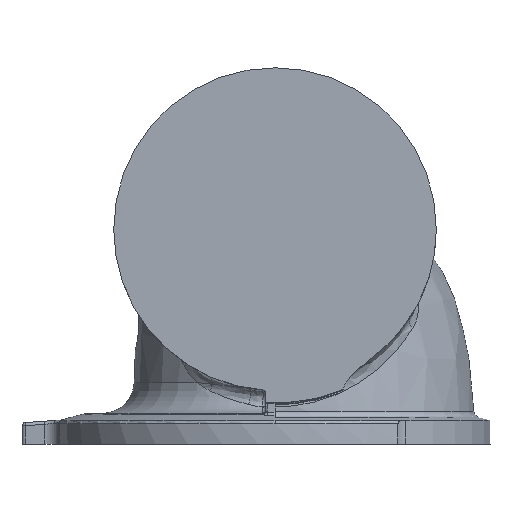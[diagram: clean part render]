
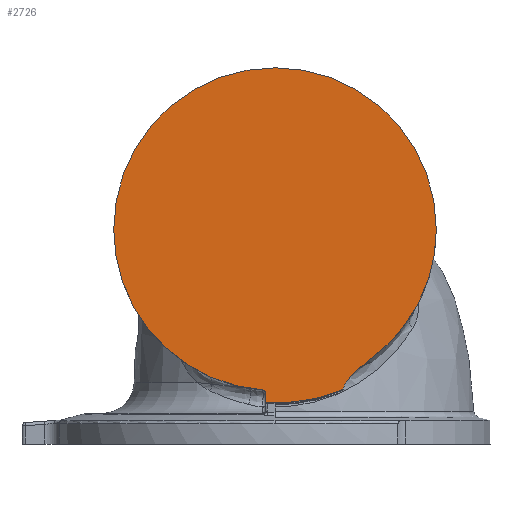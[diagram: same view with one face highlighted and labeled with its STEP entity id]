
A CAD part, left-side view. The second image highlights one B-rep face of the part: STEP entity #2726.
In plain terms, the highlighted planar face has unit normal (-1, 0, 0).
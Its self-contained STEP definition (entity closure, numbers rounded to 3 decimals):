
#109 = LINE ( 'NONE', #29613, #18915 ) ;
#161 = CARTESIAN_POINT ( 'NONE',  ( -58.7, -26.408, 145.926 ) ) ;
#455 = CIRCLE ( 'NONE', #26333, 51. ) ;
#641 = CARTESIAN_POINT ( 'NONE',  ( -58.7, -24.684, 144.269 ) ) ;
#2360 = EDGE_CURVE ( 'NONE', #17118, #13776, #18748, .T. ) ;
#2582 = CARTESIAN_POINT ( 'NONE',  ( -58.7, -25.203, 144.799 ) ) ;
#2726 = ADVANCED_FACE ( 'NONE', ( #18534 ), #30673, .T. ) ;
#2764 = DIRECTION ( 'NONE',  ( 0., -1., 0. ) ) ;
#3183 = AXIS2_PLACEMENT_3D ( 'NONE', #17445, #17285, #9976 ) ;
#3303 = CARTESIAN_POINT ( 'NONE',  ( -58.7, -21.592, 139.361 ) ) ;
#3742 = ORIENTED_EDGE ( 'NONE', *, *, #16642, .F. ) ;
#3842 = AXIS2_PLACEMENT_3D ( 'NONE', #17377, #19645, #2764 ) ;
#4030 = ORIENTED_EDGE ( 'NONE', *, *, #9309, .T. ) ;
#4844 = DIRECTION ( 'NONE',  ( 0., -1., 0. ) ) ;
#6807 = DIRECTION ( 'NONE',  ( 0., -1., 0. ) ) ;
#6822 = CARTESIAN_POINT ( 'NONE',  ( -58.7, -24.512, 144.091 ) ) ;
#6990 = CARTESIAN_POINT ( 'NONE',  ( -58.7, -23.122, 142.49 ) ) ;
#7282 = CARTESIAN_POINT ( 'NONE',  ( -58.7, 0., 190. ) ) ;
#7300 = CARTESIAN_POINT ( 'NONE',  ( -58.7, -22.256, 141.218 ) ) ;
#8900 = CIRCLE ( 'NONE', #17717, 51. ) ;
#9253 = CARTESIAN_POINT ( 'NONE',  ( -58.7, -21.807, 140.376 ) ) ;
#9309 = EDGE_CURVE ( 'NONE', #16813, #30231, #18356, .T. ) ;
#9333 = VERTEX_POINT ( 'NONE', #12972 ) ;
#9734 = CARTESIAN_POINT ( 'NONE',  ( -58.7, -22.84, 142.1 ) ) ;
#9968 = EDGE_LOOP ( 'NONE', ( #3742, #14441, #26094, #22468, #12891, #14933, #4030 ) ) ;
#9976 = DIRECTION ( 'NONE',  ( 0., -1., 0. ) ) ;
#10211 = CARTESIAN_POINT ( 'NONE',  ( -58.7, -27.002, 146.444 ) ) ;
#10537 = CARTESIAN_POINT ( 'NONE',  ( -58.7, -24.834, 144.423 ) ) ;
#11836 = EDGE_CURVE ( 'NONE', #25634, #16813, #455, .T. ) ;
#11983 = DIRECTION ( 'NONE',  ( -1., 0., 0. ) ) ;
#12643 = CARTESIAN_POINT ( 'NONE',  ( -58.7, -26.901, 146.357 ) ) ;
#12891 = ORIENTED_EDGE ( 'NONE', *, *, #26717, .T. ) ;
#12972 = CARTESIAN_POINT ( 'NONE',  ( -58.7, -29.517, 148.41 ) ) ;
#13032 = CIRCLE ( 'NONE', #3183, 51. ) ;
#13776 = VERTEX_POINT ( 'NONE', #3303 ) ;
#14110 = CARTESIAN_POINT ( 'NONE',  ( -58.7, 0., 190. ) ) ;
#14378 = EDGE_CURVE ( 'NONE', #13776, #9333, #18289, .T. ) ;
#14441 = ORIENTED_EDGE ( 'NONE', *, *, #2360, .T. ) ;
#14715 = DIRECTION ( 'NONE',  ( 0., 0., 1. ) ) ;
#14766 = CARTESIAN_POINT ( 'NONE',  ( -58.7, -22.849, 142.113 ) ) ;
#14933 = ORIENTED_EDGE ( 'NONE', *, *, #11836, .T. ) ;
#15086 = CARTESIAN_POINT ( 'NONE',  ( -58.7, -29.517, 148.41 ) ) ;
#15247 = CARTESIAN_POINT ( 'NONE',  ( -58.7, -28.703, 147.832 ) ) ;
#15772 = CARTESIAN_POINT ( 'NONE',  ( -58.7, 0., 190. ) ) ;
#16642 = EDGE_CURVE ( 'NONE', #17118, #30231, #109, .T. ) ;
#16813 = VERTEX_POINT ( 'NONE', #17469 ) ;
#17118 = VERTEX_POINT ( 'NONE', #31127 ) ;
#17285 = DIRECTION ( 'NONE',  ( -1., 0., 0. ) ) ;
#17359 = CARTESIAN_POINT ( 'NONE',  ( -58.7, -22.695, 141.895 ) ) ;
#17377 = CARTESIAN_POINT ( 'NONE',  ( -58.7, 4., 138.154 ) ) ;
#17445 = CARTESIAN_POINT ( 'NONE',  ( -58.7, 0., 190. ) ) ;
#17469 = CARTESIAN_POINT ( 'NONE',  ( -58.7, 3.923, 139.151 ) ) ;
#17717 = AXIS2_PLACEMENT_3D ( 'NONE', #15772, #27462, #23069 ) ;
#18289 = B_SPLINE_CURVE_WITH_KNOTS ( 'NONE', 3,
 ( #19472, #31933, #9253, #7300, #22060, #17359, #21729, #21569, #9734, #14766, #24657, #31444, #6990, #19146, #31770, #6822, #641, #28038, #27725, #10537, #25290, #20104, #2582, #20428, #161, #30450, #12643, #10211, #29985, #15247, #15086 ),
 .UNSPECIFIED., .F., .F.,
 ( 4, 1, 1, 1, 1, 1, 1, 1, 2, 2, 1, 1, 1, 1, 1, 1, 2, 2, 1, 1, 2, 2, 4 ),
 ( 0., 0.125, 0.187, 0.219, 0.234, 0.242, 0.246, 0.248, 0.249, 0.25, 0.375, 0.437, 0.469, 0.484, 0.492, 0.496, 0.498, 0.5, 0.625, 0.687, 0.719, 0.75, 1. ),
 .UNSPECIFIED. ) ;
#18356 = CIRCLE ( 'NONE', #3842, 1. ) ;
#18534 = FACE_OUTER_BOUND ( 'NONE', #9968, .T. ) ;
#18748 = CIRCLE ( 'NONE', #19750, 55.05 ) ;
#18915 = VECTOR ( 'NONE', #14715, 1000. ) ;
#19045 = CARTESIAN_POINT ( 'NONE',  ( -58.7, 3., 138.154 ) ) ;
#19146 = CARTESIAN_POINT ( 'NONE',  ( -58.7, -23.567, 143.05 ) ) ;
#19472 = CARTESIAN_POINT ( 'NONE',  ( -58.7, -21.592, 139.361 ) ) ;
#19645 = DIRECTION ( 'NONE',  ( 1., 0., 0. ) ) ;
#19750 = AXIS2_PLACEMENT_3D ( 'NONE', #7282, #11983, #4844 ) ;
#20104 = CARTESIAN_POINT ( 'NONE',  ( -58.7, -24.854, 144.443 ) ) ;
#20314 = CARTESIAN_POINT ( 'NONE',  ( -58.7, 0., 190. ) ) ;
#20428 = CARTESIAN_POINT ( 'NONE',  ( -58.7, -25.741, 145.321 ) ) ;
#20479 = DIRECTION ( 'NONE',  ( -1., 0., 0. ) ) ;
#21569 = CARTESIAN_POINT ( 'NONE',  ( -58.7, -22.819, 142.07 ) ) ;
#21729 = CARTESIAN_POINT ( 'NONE',  ( -58.7, -22.777, 142.012 ) ) ;
#22060 = CARTESIAN_POINT ( 'NONE',  ( -58.7, -22.539, 141.665 ) ) ;
#22468 = ORIENTED_EDGE ( 'NONE', *, *, #24475, .T. ) ;
#23069 = DIRECTION ( 'NONE',  ( 0., -1., 0. ) ) ;
#23995 = DIRECTION ( 'NONE',  ( -1., 0., 0. ) ) ;
#24475 = EDGE_CURVE ( 'NONE', #9333, #30911, #13032, .T. ) ;
#24657 = CARTESIAN_POINT ( 'NONE',  ( -58.7, -22.855, 142.121 ) ) ;
#25290 = CARTESIAN_POINT ( 'NONE',  ( -58.7, -24.847, 144.436 ) ) ;
#25634 = VERTEX_POINT ( 'NONE', #27895 ) ;
#26094 = ORIENTED_EDGE ( 'NONE', *, *, #14378, .T. ) ;
#26333 = AXIS2_PLACEMENT_3D ( 'NONE', #14110, #23995, #6807 ) ;
#26717 = EDGE_CURVE ( 'NONE', #30911, #25634, #8900, .T. ) ;
#27462 = DIRECTION ( 'NONE',  ( -1., 0., 0. ) ) ;
#27725 = CARTESIAN_POINT ( 'NONE',  ( -58.7, -24.815, 144.404 ) ) ;
#27895 = CARTESIAN_POINT ( 'NONE',  ( -58.7, 51., 190. ) ) ;
#28038 = CARTESIAN_POINT ( 'NONE',  ( -58.7, -24.771, 144.359 ) ) ;
#29102 = AXIS2_PLACEMENT_3D ( 'NONE', #20314, #20479, #30351 ) ;
#29334 = CARTESIAN_POINT ( 'NONE',  ( -58.7, -51., 190. ) ) ;
#29613 = CARTESIAN_POINT ( 'NONE',  ( -58.7, 3., 190. ) ) ;
#29985 = CARTESIAN_POINT ( 'NONE',  ( -58.7, -27.898, 147.205 ) ) ;
#30231 = VERTEX_POINT ( 'NONE', #19045 ) ;
#30351 = DIRECTION ( 'NONE',  ( 0., 1., 0. ) ) ;
#30450 = CARTESIAN_POINT ( 'NONE',  ( -58.7, -26.703, 146.185 ) ) ;
#30673 = PLANE ( 'NONE',  #29102 ) ;
#30911 = VERTEX_POINT ( 'NONE', #29334 ) ;
#31127 = CARTESIAN_POINT ( 'NONE',  ( -58.7, 3., 135.032 ) ) ;
#31444 = CARTESIAN_POINT ( 'NONE',  ( -58.7, -22.859, 142.127 ) ) ;
#31770 = CARTESIAN_POINT ( 'NONE',  ( -58.7, -24.182, 143.738 ) ) ;
#31933 = CARTESIAN_POINT ( 'NONE',  ( -58.7, -21.624, 139.743 ) ) ;
